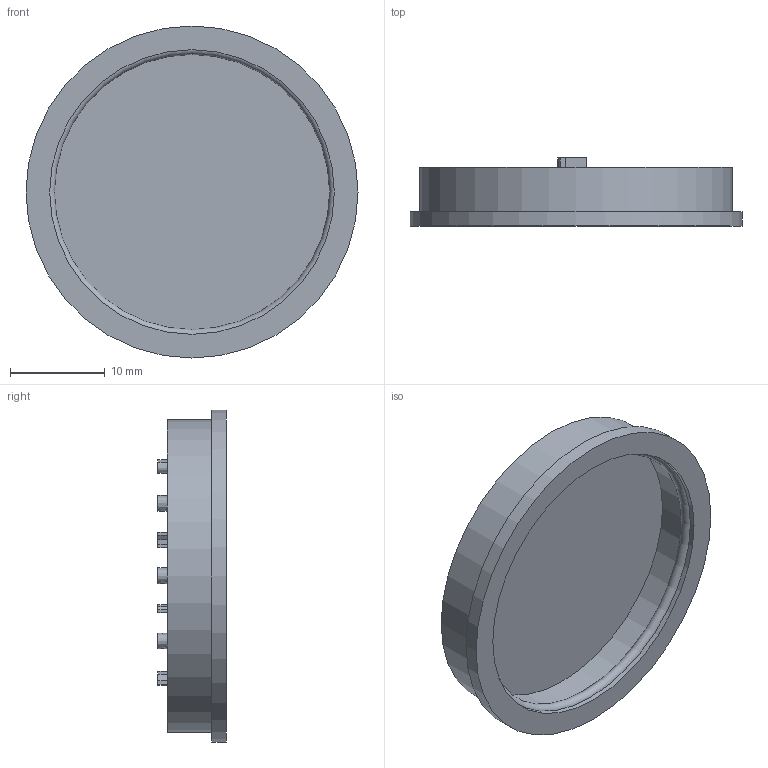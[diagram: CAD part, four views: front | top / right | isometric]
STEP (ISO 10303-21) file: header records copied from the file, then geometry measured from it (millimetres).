
FILE_DESCRIPTION( ( 'Unknown' ), '1' );
FILE_NAME( 'X:/Daten ( aktueller Bestand )/Projekte und Zeichnungen/Solid Edge/4 Dichtungsbauteile und Zubehör/1322.stp', 'Unknown', ( 'Unknown' ), ( 'Unknown' ), 'XStep 1.0', 'Unknown', ' ' );
FILE_SCHEMA( ( 'automotive_design' ) );
Length unit declared in the file: millimetre
Products named in the file (1): 1
Bounding box: 35 x 7.2 x 35 mm (x, y, z)
Volume: 2192.5 mm3; surface area: 3137.4 mm2
Topology: 1 solids, 1 shells, 67 faces, 157 edges, 104 vertices
Faces by surface type: plane 49, extrusion 13, cylinder 4, torus 1
Full cylindrical faces by diameter (mm): 30 x2, 33 x1, 35 x1
Entity records: 2954 total; most frequent: CARTESIAN_POINT 1076, ORIENTED_EDGE 296, DIRECTION 183, EDGE_CURVE 148, B_SPLINE_CURVE_WITH_KNOTS 109, VERTEX_POINT 104, EDGE_LOOP 88, FACE_OUTER_BOUND 76
